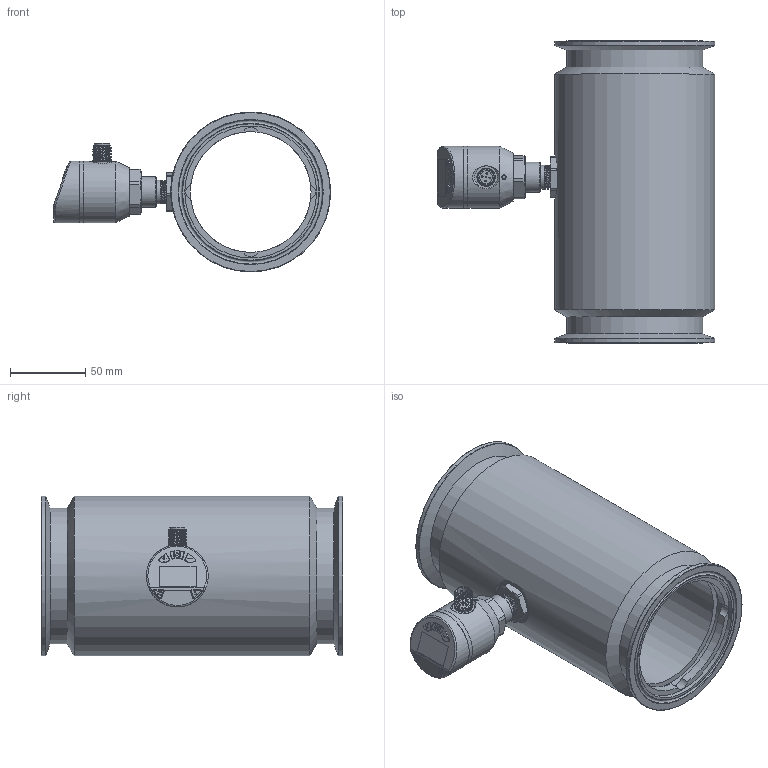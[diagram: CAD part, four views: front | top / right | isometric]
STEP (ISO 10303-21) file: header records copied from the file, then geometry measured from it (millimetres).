
FILE_DESCRIPTION( (''), '2;1');
FILE_NAME( 'QTKA_DN80_tri-clamp.step', '2024-01-11T14:27:27+08:00', (''), (''), '', '', '');
FILE_SCHEMA (('AUTOMOTIVE_DESIGN { 1 0 10303 214 3 1 1 1 }'));
Length unit declared in the file: millimetre
Products named in the file (1): QTKA DN80_tri-clamp
Bounding box: 183.8 x 200 x 106 mm (x, y, z)
Volume: 701019.8 mm3; surface area: 159109.8 mm2
Topology: 5 solids, 7 shells, 473 faces, 1133 edges, 714 vertices
Faces by surface type: cylinder 162, plane 161, cone 51, torus 49, bspline 44, sphere 6
Full cylindrical faces by diameter (mm): 1 x5, 2.7 x4, 8.4 x1, 9.7 x1, 9.8 x1, 10.1 x1, 11.6 x1, 12 x1, 15.9 x1, 16.5 x1, 20 x1, 23 x3, 26 x4, 26.1 x1, 37 x1, 41 x3, 80 x1, 86 x2, 87.347 x2, 90 x2, 105.9 x2, 106 x1
Entity records: 30618 total; most frequent: CARTESIAN_POINT 18822, DIRECTION 2126, ORIENTED_EDGE 2038, EDGE_CURVE 1019, AXIS2_PLACEMENT_3D 867, VERTEX_POINT 674, EDGE_LOOP 593, ADVANCED_FACE 471
